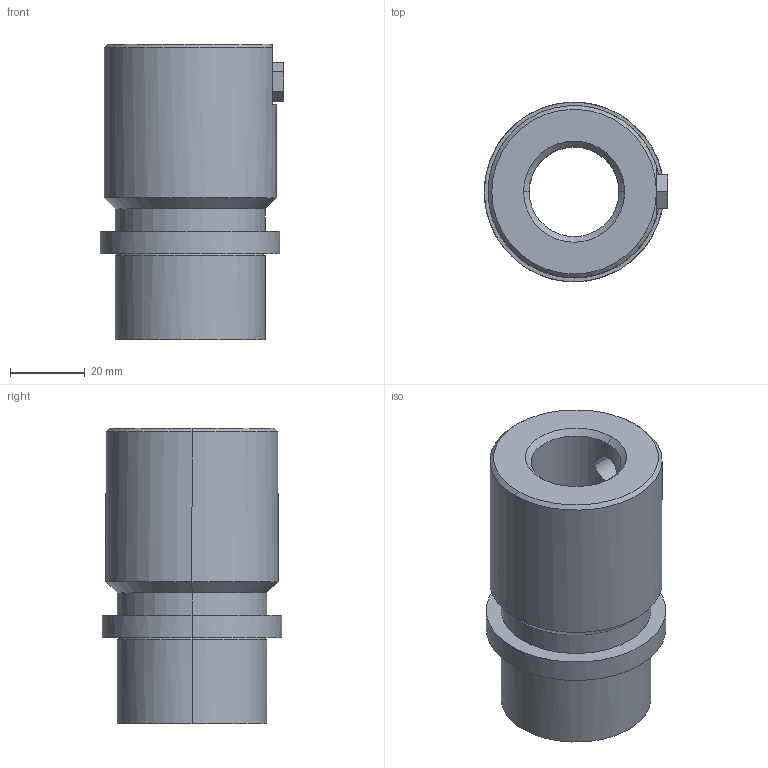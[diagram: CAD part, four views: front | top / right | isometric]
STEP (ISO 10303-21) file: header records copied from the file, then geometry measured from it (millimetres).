
FILE_DESCRIPTION(('CATIA V5 STEP Exchange'),'2;1');
FILE_NAME('C:\Users\Utente\Desktop\IO LAVORO\3D X SITO CF\X SITO\742\742-24.stp','2021-01-23T15:59:09+00:00',('none'),('none'),'CATIA Version 5 Release 20 GA (IN-10)','CATIA V5 STEP AP203','none');
FILE_SCHEMA(('CONFIG_CONTROL_DESIGN'));
Length unit declared in the file: millimetre
Products named in the file (1): 742-24
Assembly tree (1 placements, depth 2):
  742-24
    #58
Bounding box: 49 x 48 x 79 mm (x, y, z)
Volume: 83427.6 mm3; surface area: 20370.8 mm2
Topology: 1 solids, 1 shells, 38 faces, 91 edges, 58 vertices
Faces by surface type: plane 14, cylinder 12, cone 8, torus 4
Entity records: 1268 total; most frequent: CARTESIAN_POINT 350, ORIENTED_EDGE 182, DIRECTION 155, EDGE_CURVE 91, AXIS2_PLACEMENT_3D 74, VERTEX_POINT 58, EDGE_LOOP 43, VECTOR 41
